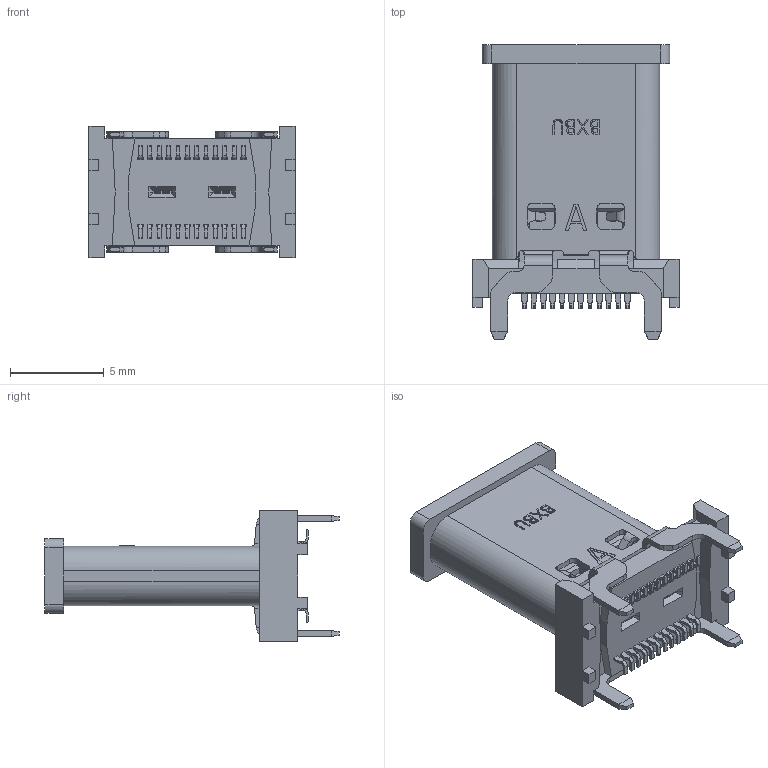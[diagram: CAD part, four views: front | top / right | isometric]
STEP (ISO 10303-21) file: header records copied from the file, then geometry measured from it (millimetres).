
FILE_DESCRIPTION((' '),'2;1');
FILE_NAME( 'U5154-24PN13.0L.stp', '2026-05-11T17:21:39', (' '), ('--- ---'), ' V2026.1 Dec 31 2025', ' 2026 (c)', ' ');
FILE_SCHEMA(('AP242_MANAGED_MODEL_BASED_3D_ENGINEERING_MIM_LF { 1 0 10303 442 1 1 4 }'));
Length unit declared in the file: millimetre
Products named in the file (4): COVER__35_1_1; SHELL_H13_18_1; U5154-24PN13.0L(2); U5154-24PN13.0L
Assembly tree (3 placements, depth 3):
  U5154-24PN13.0L
    U5154-24PN13.0L(2)
      COVER__35_1_1
      SHELL_H13_18_1
Bounding box: 11 x 15.7 x 7 mm (x, y, z)
Volume: 357.6 mm3; surface area: 1206 mm2
Topology: 95 solids, 119 shells, 2368 faces, 6242 edges, 4099 vertices
Faces by surface type: plane 1792, cylinder 445, cone 72, bspline 49, torus 10
Entity records: 75073 total; most frequent: CARTESIAN_POINT 16695, ORIENTED_EDGE 12228, DIRECTION 11348, EDGE_CURVE 6234, VECTOR 4992, LINE 4992, VERTEX_POINT 4099, AXIS2_PLACEMENT_3D 3178
